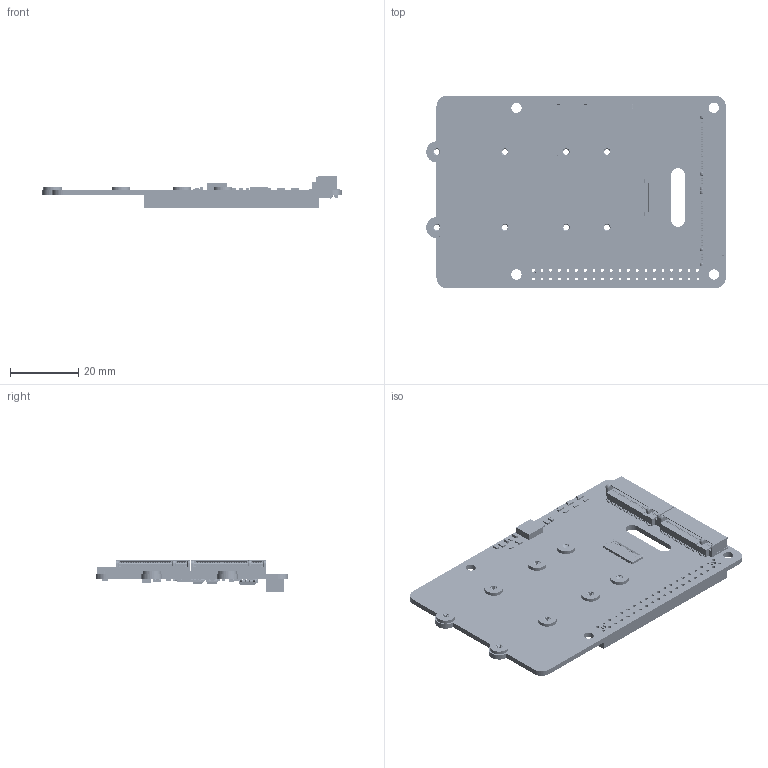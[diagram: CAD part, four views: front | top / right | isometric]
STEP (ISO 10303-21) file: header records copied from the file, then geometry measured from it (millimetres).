
FILE_DESCRIPTION((''),'2;1');
FILE_NAME('PCIE_TO_2-CH_M_2_HAT_B_ASM','2025-11-10T09:17:13',('ag'),(''),'CREO PARAMETRIC BY PTC INC, 2021063','CREO PARAMETRIC BY PTC INC, 2021063','');
FILE_SCHEMA(('CONFIG_CONTROL_DESIGN','SHAPE_APPEARANCE_LAYERS_GROUPS'));
Products named in the file (176): BOARD; _2_1_2_3_4_AF0; _7_1_2_AF0; 5_1_2_3_400; R_0603-3601_AF0_ASM_ASM; R_0603-3615_AF0_ASM_ASM; R0603_ASM; R18_ASM; R17_ASM; R2_ASM; R25_ASM; R23_ASM; 500; _1_1_2_30001; 4_A; C_0805-10418_AF1_ASM_ASM; C_0805-3038_AF1_ASM_ASM; C_0805_ASM; C8_ASM; C11_ASM; USER_LIBRARY-SOP-8; U4_ASM; _2_1_2_3_4_5_6_AF0; _7_1_2_3_4_AF0; 5_1_2_3_4_5_600; R_0805-6998_AF0_ASM_ASM; R_0805-7019_AF0_ASM_ASM; R0805_ASM; R44_ASM; R6_ASM; R12_ASM; R24_ASM; R21_ASM; EXTRUDED-175391; _1595459472_ASM; LED1_ASM; 2_1_200; _1_1_20001; 3_1_2_A; C_0603-683_AF0_ASM_ASM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
Assembly tree (289 placements, depth 6):
  PCIE_TO_2-CH_M_2_HAT_B_ASM
    BOARD
    R18_ASM
      R0603_ASM
        R_0603-3615_AF0_ASM_ASM
          R_0603-3601_AF0_ASM_ASM
            _2_1_2_3_4_AF0
            _7_1_2_AF0
            5_1_2_3_400
    R17_ASM
      R0603_ASM
        R_0603-3615_AF0_ASM_ASM
          R_0603-3601_AF0_ASM_ASM
            _2_1_2_3_4_AF0
            _7_1_2_AF0
            5_1_2_3_400
    R2_ASM
      R0603_ASM
        R_0603-3615_AF0_ASM_ASM
          R_0603-3601_AF0_ASM_ASM
            _2_1_2_3_4_AF0
            _7_1_2_AF0
            5_1_2_3_400
    R25_ASM
      R0603_ASM
        R_0603-3615_AF0_ASM_ASM
          R_0603-3601_AF0_ASM_ASM
            _2_1_2_3_4_AF0
            _7_1_2_AF0
            5_1_2_3_400
    R23_ASM
      R0603_ASM
        R_0603-3615_AF0_ASM_ASM
          R_0603-3601_AF0_ASM_ASM
            _2_1_2_3_4_AF0
            _7_1_2_AF0
            5_1_2_3_400
    C8_ASM
      C_0805_ASM
        C_0805-3038_AF1_ASM_ASM
          C_0805-10418_AF1_ASM_ASM
            500
            _1_1_2_30001
            4_A
    C11_ASM
      C_0805_ASM
        C_0805-3038_AF1_ASM_ASM
          C_0805-10418_AF1_ASM_ASM
            500
            _1_1_2_30001
            4_A
    U4_ASM
      USER_LIBRARY-SOP-8
    R44_ASM
      R0805_ASM
        R_0805-7019_AF0_ASM_ASM
          R_0805-6998_AF0_ASM_ASM
            _2_1_2_3_4_5_6_AF0
            _7_1_2_3_4_AF0
            5_1_2_3_4_5_600
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Bounding box: 88.02 x 56.52 x 9.2 mm (x, y, z)
Volume: 9798.4 mm3; surface area: 16630.6 mm2
Topology: 299 solids, 299 shells, 39977 faces, 106862 edges, 70587 vertices
Faces by surface type: plane 29008, extrusion 8216, cylinder 2299, sphere 298, bspline 68, cone 56, torus 32
Entity records: 287113 total; most frequent: CARTESIAN_POINT 59157, ORIENTED_EDGE 34530, DIRECTION 29834, PRESENTATION_STYLE_ASSIGNMENT 17310, EDGE_CURVE 17265, STYLED_ITEM 15468, VECTOR 14948, CURVE_STYLE 14363
